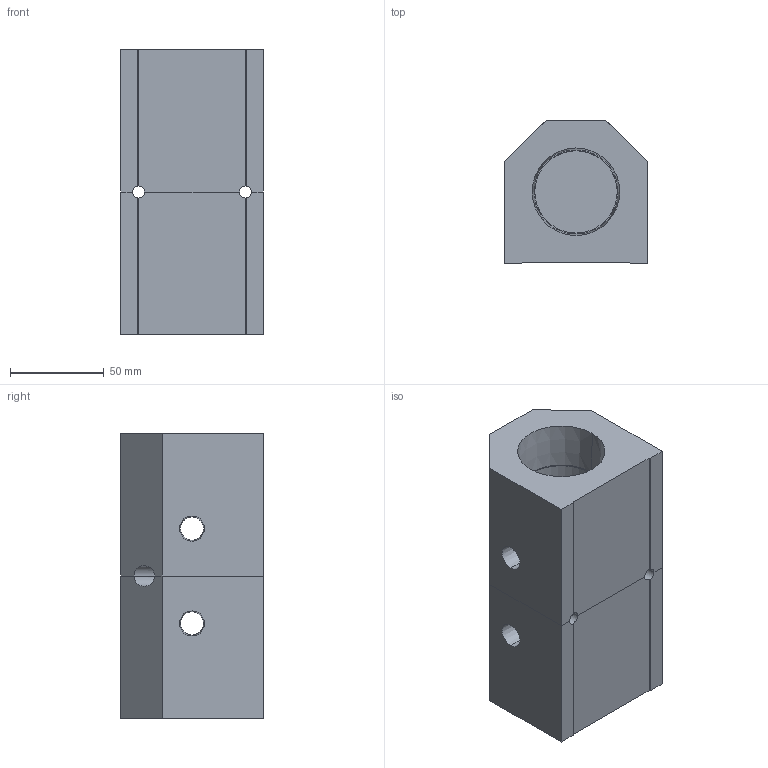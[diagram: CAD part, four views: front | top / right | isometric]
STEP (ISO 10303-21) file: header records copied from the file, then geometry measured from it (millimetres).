
FILE_DESCRIPTION (( 'STEP AP214' ), '1' );
FILE_NAME ('ALM2ACE-N4N24-152RB.step', '2022-02-07T07:51:56', ( '' ), ( '' ), 'SwSTEP 2.0', 'SolidWorks 2020', '' );
FILE_SCHEMA (( 'AUTOMOTIVE_DESIGN' ));
Length unit declared in the file: millimetre
Products named in the file (1): ALM2ACE-N4N24-152RB
Bounding box: 76.2 x 76.2 x 152 mm (x, y, z)
Volume: 550570.3 mm3; surface area: 87728.9 mm2
Topology: 2 solids, 2 shells, 345 faces, 917 edges, 608 vertices
Faces by surface type: plane 259, bspline 54, cylinder 16, cone 16
Entity records: 17920 total; most frequent: CARTESIAN_POINT 6491, ORIENTED_EDGE 1834, DIRECTION 1419, EDGE_CURVE 917, VECTOR 739, LINE 739, VERTEX_POINT 608, EDGE_LOOP 389
